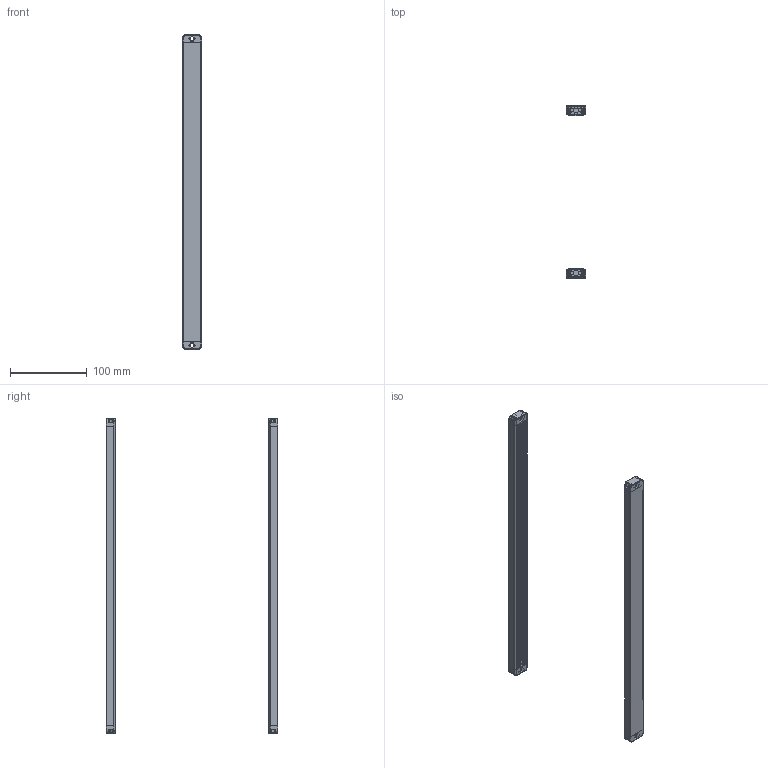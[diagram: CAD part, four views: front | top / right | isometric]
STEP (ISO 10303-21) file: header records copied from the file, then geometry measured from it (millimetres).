
FILE_DESCRIPTION (( 'STEP AP203' ), '1' );
FILE_NAME ('ZDB2020-390.STEP', '2022-08-31T03:10:56', ( 'Windows 蚚誧' ), ( 'Organization' ), 'SwSTEP 2.0', 'SolidWorks 2020', '' );
FILE_SCHEMA (( 'CONFIG_CONTROL_DESIGN' ));
Length unit declared in the file: millimetre
Products named in the file (4): 傷裔衵; 傷裔酘諉彶; 媼啃3臏倰第; ZDB2020-390
Assembly tree (6 placements, depth 2):
  ZDB2020-390
    傷裔衵  x2
    傷裔酘諉彶  x2
    媼啃3臏倰第  x2
Bounding box: 25 x 224 x 410 mm (x, y, z)
Volume: 80019.1 mm3; surface area: 128566.2 mm2
Topology: 6 solids, 6 shells, 650 faces, 1758 edges, 1124 vertices
Faces by surface type: plane 406, cylinder 188, torus 32, bspline 16, sphere 8
Entity records: 11427 total; most frequent: CARTESIAN_POINT 2721, ORIENTED_EDGE 1750, DIRECTION 1687, EDGE_CURVE 875, VECTOR 631, LINE 631, VERTEX_POINT 562, AXIS2_PLACEMENT_3D 528
